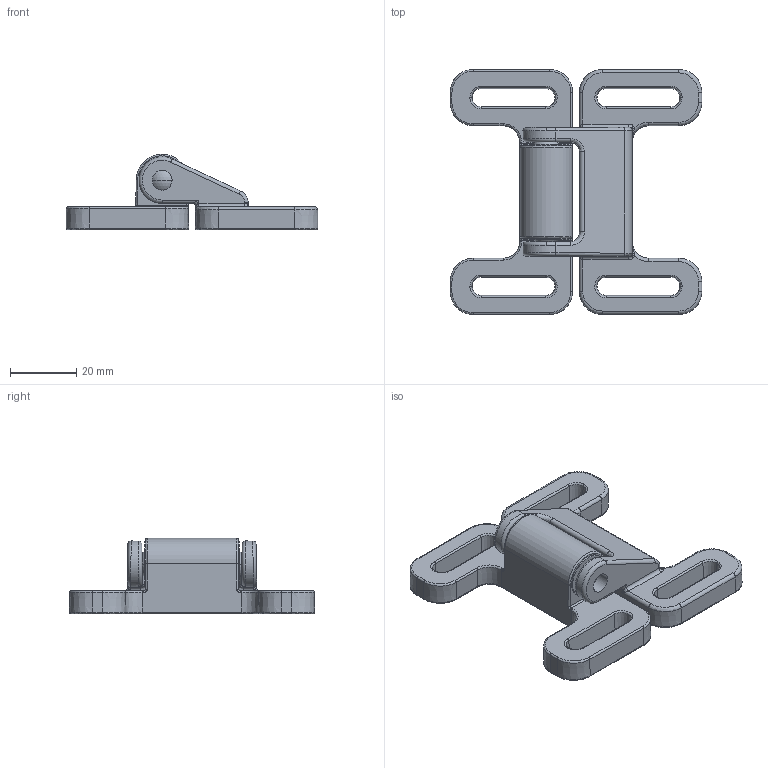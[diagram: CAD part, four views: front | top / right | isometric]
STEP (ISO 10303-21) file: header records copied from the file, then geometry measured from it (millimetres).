
FILE_DESCRIPTION (( 'STEP AP203' ), '1' );
FILE_NAME ('23919_KUGDOPPA.STEP', '2018-04-05T14:40:23', ( '' ), ( '' ), 'SwSTEP 2.0', 'SolidWorks 2017', '' );
FILE_SCHEMA (( 'CONFIG_CONTROL_DESIGN' ));
Length unit declared in the file: millimetre
Products named in the file (3): 23919-01-0000-01; 09304701r02_thickness; 23919_KUGDOPPA
Assembly tree (2 placements, depth 2):
  23919_KUGDOPPA
    23919-01-0000-01
    09304701r02_thickness
Bounding box: 75.99 x 73.99 x 22.87 mm (x, y, z)
Volume: 30493.6 mm3; surface area: 15656.4 mm2
Topology: 2 solids, 2 shells, 418 faces, 952 edges, 542 vertices
Faces by surface type: cylinder 162, bspline 147, plane 77, cone 28, sphere 4
Entity records: 16388 total; most frequent: CARTESIAN_POINT 7632, ORIENTED_EDGE 1888, DIRECTION 1642, EDGE_CURVE 944, AXIS2_PLACEMENT_3D 635, VERTEX_POINT 542, EDGE_LOOP 442, ADVANCED_FACE 418
